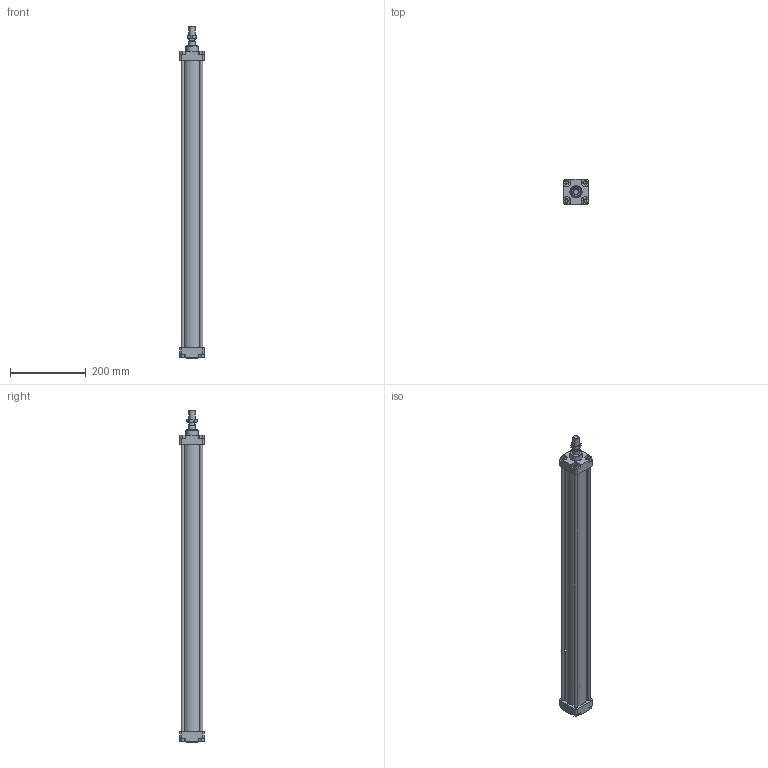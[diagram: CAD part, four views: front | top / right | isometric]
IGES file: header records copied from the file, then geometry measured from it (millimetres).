
Global section: file name: 130#_050_0700_01A; native system: Autodesk Inventor 2014; preprocessor: unknown; author: A. Manieri; date: 20161123.145547; units: millimetre
Bounding box: 65 x 65 x 879 mm (x, y, z)
Volume: 904564.7 mm3; surface area: 428694 mm2
Topology: 9 solids, 9 shells, 163 faces, 401 edges, 268 vertices
Faces by surface type: bspline 163
